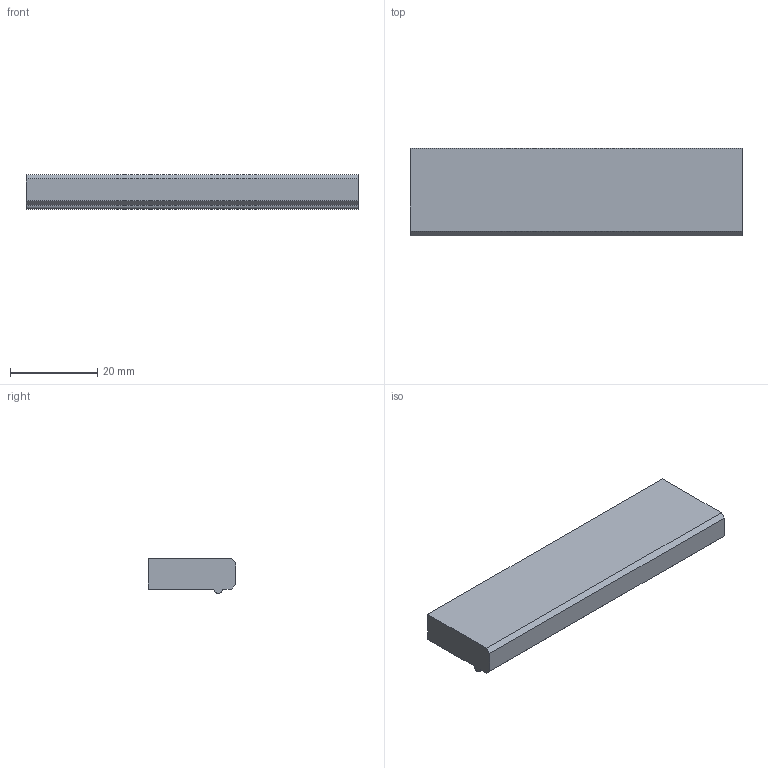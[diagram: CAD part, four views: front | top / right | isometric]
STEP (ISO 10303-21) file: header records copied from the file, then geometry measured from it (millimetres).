
FILE_DESCRIPTION( ( 'STEP AP214' ), '1' );
FILE_NAME( 'C:/Users/kulkarni/Desktop/Apurva/2015/Prodecor_2016/Cadfiles/same as files/stabia/9204157.stp', ' ', ( ' ' ), ( ' ' ), 'PSStep 15.0.47', 'PARTsolutions', ' ' );
FILE_SCHEMA( ( 'AUTOMOTIVE_DESIGN { 1 0 10303 214 1 1 1 1 }' ) );
Length unit declared in the file: millimetre
Products named in the file (1): _9204157
Bounding box: 76 x 20 x 8 mm (x, y, z)
Volume: 10482.3 mm3; surface area: 4583.9 mm2
Topology: 1 solids, 1 shells, 14 faces, 30 edges, 20 vertices
Faces by surface type: plane 11, cylinder 3
Full cylindrical faces by diameter (mm): 4 x2
Entity records: 498 total; most frequent: DIRECTION 64, CARTESIAN_POINT 63, ORIENTED_EDGE 56, EDGE_CURVE 28, LINE 22, VECTOR 22, AXIS2_PLACEMENT_3D 21, VERTEX_POINT 20
